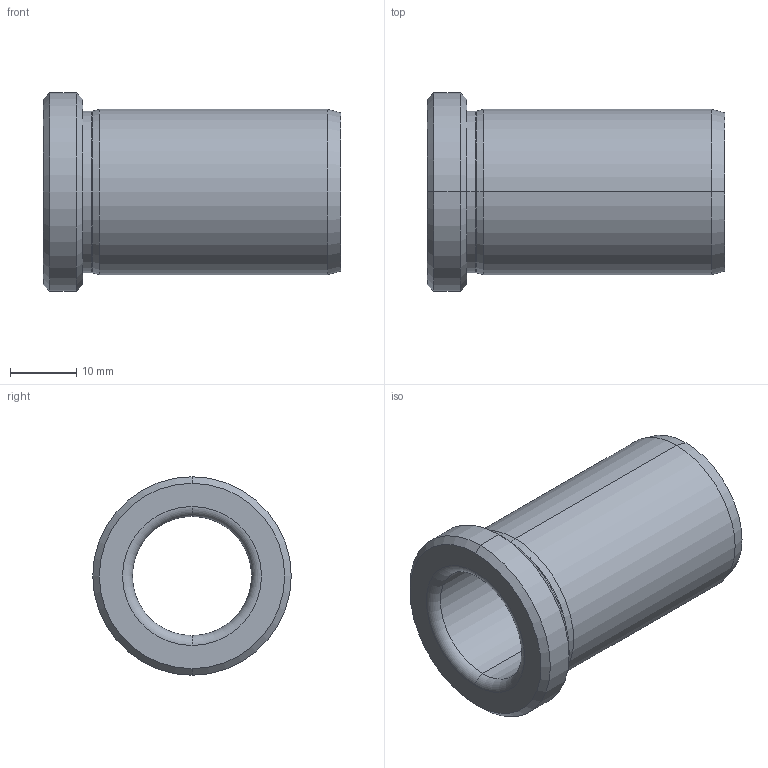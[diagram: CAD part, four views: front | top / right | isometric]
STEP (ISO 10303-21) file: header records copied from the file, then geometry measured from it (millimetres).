
FILE_DESCRIPTION (( 'STEP AP214' ), '1' );
FILE_NAME ('BRCVBG-18x45.STEP', '2020-07-21T12:11:04', ( '' ), ( '' ), 'SwSTEP 2.0', 'SolidWorks 2018', '' );
FILE_SCHEMA (( 'AUTOMOTIVE_DESIGN' ));
Length unit declared in the file: millimetre
Products named in the file (1): BRCVBG-18x45
Bounding box: 45 x 30 x 30 mm (x, y, z)
Volume: 11727 mm3; surface area: 6913 mm2
Topology: 1 solids, 1 shells, 23 faces, 46 edges, 26 vertices
Faces by surface type: cone 8, cylinder 8, torus 4, plane 3
Entity records: 636 total; most frequent: DIRECTION 124, CARTESIAN_POINT 96, ORIENTED_EDGE 92, AXIS2_PLACEMENT_3D 54, EDGE_CURVE 46, CIRCLE 30, EDGE_LOOP 26, VERTEX_POINT 26
